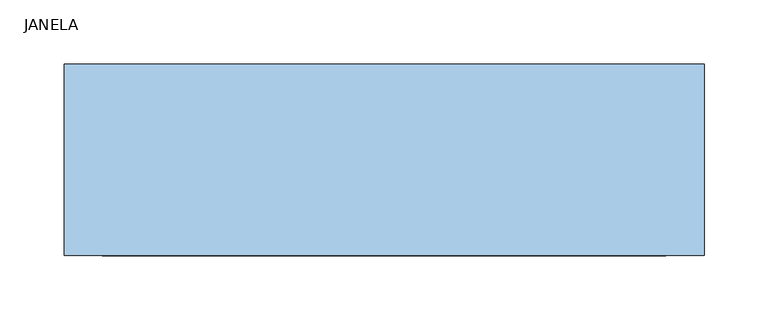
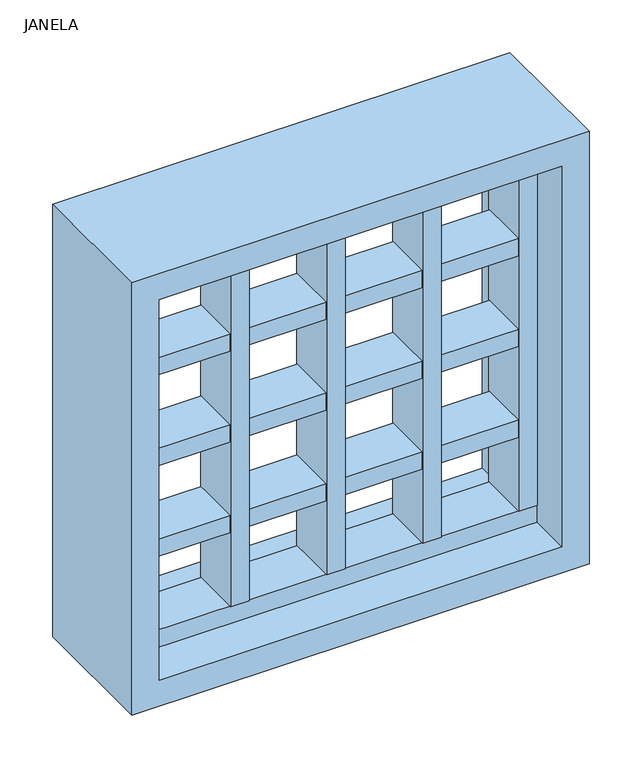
"""IFC4 building model written with IfcOpenShell, lengths in millimetres: window geometry, JANELA : Maxim'ar 50cm."""

from ifc_helpers import new_model, si_unit, frame, origin, place, context, project, spatial, polyline, outline, extrude, source, transform, mapped, element, save


def janela_fc375d33(model_context):
    return source(origin(), model_context, "Body", "SweptSolid", [
        extrude(outline(polyline([(-95.0, 28.5), (-95.0, -28.5), (-115.0, -28.5), (-115.0, 28.5), (-95.0, 28.5)])), frame((0.0, 0.0, 1350.0), z_axis=(0.0, 0.0, 1.0), x_axis=(1.0, 0.0, 0.0)), (0.0, 0.0, 1.0), 400.0),
        extrude(outline(polyline([(10.0, 28.5), (10.0, -28.5), (-10.0, -28.5), (-10.0, 28.5), (10.0, 28.5)])), frame((0.0, 0.0, 1350.0), z_axis=(0.0, 0.0, 1.0), x_axis=(1.0, 0.0, 0.0)), (0.0, 0.0, 1.0), 400.0),
        extrude(outline(polyline([(115.0, 28.5), (115.0, -28.5), (95.0, -28.5), (95.0, 28.5), (115.0, 28.5)])), frame((0.0, 0.0, 1350.0), z_axis=(0.0, 0.0, 1.0), x_axis=(1.0, 0.0, 0.0)), (0.0, 0.0, 1.0), 400.0),
        extrude(outline(polyline([(220.0, 27.5), (220.0, -27.5), (-220.0, -27.5), (-220.0, 27.5), (220.0, 27.5)])), frame((0.0, 0.0, 1645.0), z_axis=(0.0, 0.0, 1.0), x_axis=(1.0, 0.0, 0.0)), (0.0, 0.0, 1.0), 20.0),
        extrude(outline(polyline([(220.0, 27.5), (220.0, -27.5), (-220.0, -27.5), (-220.0, 27.5), (220.0, 27.5)])), frame((0.0, 0.0, 1540.0), z_axis=(0.0, 0.0, 1.0), x_axis=(1.0, 0.0, 0.0)), (0.0, 0.0, 1.0), 20.0),
        extrude(outline(polyline([(220.0, 27.5), (220.0, -27.5), (-220.0, -27.5), (-220.0, 27.5), (220.0, 27.5)])), frame((0.0, 0.0, 1435.0), z_axis=(0.0, 0.0, 1.0), x_axis=(1.0, 0.0, 0.0)), (0.0, 0.0, 1.0), 20.0),
        extrude(outline(polyline([(-200.0, 28.5), (-200.0, -28.5), (-220.0, -28.5), (-220.0, 28.5), (-200.0, 28.5)])), frame((0.0, 0.0, 1350.0), z_axis=(0.0, 0.0, 1.0), x_axis=(1.0, 0.0, 0.0)), (0.0, 0.0, 1.0), 400.0),
        extrude(outline(polyline([(220.0, 28.5), (220.0, -28.5), (200.0, -28.5), (200.0, 28.5), (220.0, 28.5)])), frame((0.0, 0.0, 1350.0), z_axis=(0.0, 0.0, 1.0), x_axis=(1.0, 0.0, 0.0)), (0.0, 0.0, 1.0), 400.0),
        extrude(outline(polyline([(220.0, 27.5), (220.0, -27.5), (-220.0, -27.5), (-220.0, 27.5), (220.0, 27.5)])), frame((0.0, 0.0, 1750.0), z_axis=(0.0, 0.0, 1.0), x_axis=(1.0, 0.0, 0.0)), (0.0, 0.0, 1.0), 20.0),
        extrude(outline(polyline([(220.0, 27.5), (220.0, -27.5), (-220.0, -27.5), (-220.0, 27.5), (220.0, 27.5)])), frame((0.0, 0.0, 1330.0), z_axis=(0.0, 0.0, 1.0), x_axis=(1.0, 0.0, 0.0)), (0.0, 0.0, 1.0), 20.0),
        extrude(outline(polyline([(1800.0, -250.0), (1300.0, -250.0), (1300.0, 250.0), (1800.0, 250.0), (1800.0, -250.0)]), holes=[polyline([(1770.0, 220.0), (1330.0, 220.0), (1330.0, -220.0), (1770.0, -220.0), (1770.0, 220.0)])]), frame((0.0, -75.0, 0.0), z_axis=(0.0, 1.0, 0.0), x_axis=(0.0, 0.0, 1.0)), (0.0, 0.0, 1.0), 150.0),
    ])


if __name__ == "__main__":
    model = new_model("IFC4")
    model_context = context("Model", 3, world=origin())
    ifc_project = project(units=[si_unit("LENGTHUNIT", "METRE", prefix="MILLI")], contexts=[model_context])
    site = spatial("IfcSite", under=ifc_project)
    building = spatial("IfcBuilding", under=site)
    placement = place(None, origin())
    janela_shape = janela_fc375d33(model_context)
    element("IfcWindow", 1, ObjectType="JANELA : Maxim'ar 50cm", at=placement, inside=building, context=model_context, shape_type="MappedRepresentation", body=[
        mapped(janela_shape, transform((0.0, 0.0, 0.0), x_axis=(1.0, 0.0, 0.0), y_axis=(0.0, 1.0, 0.0), z_axis=(0.0, 0.0, 1.0))),
    ])
    save(model, "model.ifc")
